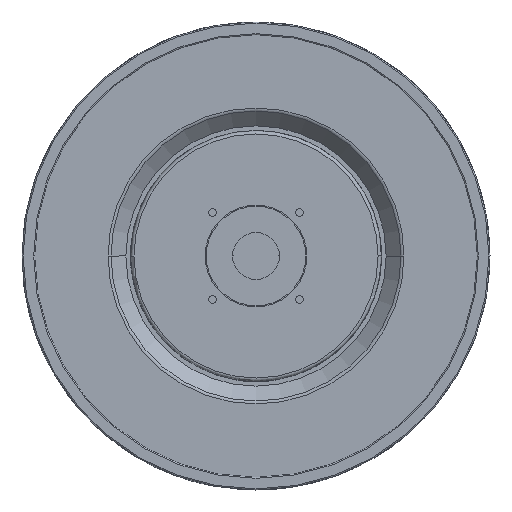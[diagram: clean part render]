
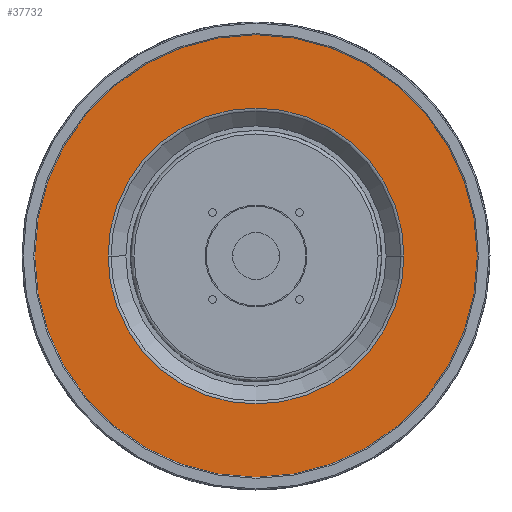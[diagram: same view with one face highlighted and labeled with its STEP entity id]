
A CAD part, front view. The second image highlights one B-rep face of the part: STEP entity #37732.
In plain terms, the highlighted planar face has unit normal (0, -1, 0).
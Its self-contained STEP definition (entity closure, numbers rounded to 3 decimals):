
#10380=CARTESIAN_POINT('',(0.,9.,0.));
#10381=DIRECTION('',(0.,1.,0.));
#10382=DIRECTION('',(1.,0.,0.));
#10383=AXIS2_PLACEMENT_3D('',#10380,#10381,#10382);
#10385=CARTESIAN_POINT('',(0.,9.,0.));
#10386=DIRECTION('',(0.,1.,0.));
#10387=DIRECTION('',(-1.,0.,0.));
#10388=AXIS2_PLACEMENT_3D('',#10385,#10386,#10387);
#10390=CARTESIAN_POINT('',(0.,9.,0.));
#10391=DIRECTION('',(0.,-1.,0.));
#10392=DIRECTION('',(-1.,0.,0.));
#10393=AXIS2_PLACEMENT_3D('',#10390,#10391,#10392);
#10395=CARTESIAN_POINT('',(0.,9.,0.));
#10396=DIRECTION('',(0.,-1.,0.));
#10397=DIRECTION('',(1.,0.,0.));
#10398=AXIS2_PLACEMENT_3D('',#10395,#10396,#10397);
#14370=CARTESIAN_POINT('',(-69.883,9.,0.));
#14371=VERTEX_POINT('',#14370);
#14372=CARTESIAN_POINT('',(69.883,9.,0.));
#14373=VERTEX_POINT('',#14372);
#14374=CARTESIAN_POINT('',(104.5,9.,0.));
#14375=CARTESIAN_POINT('',(-104.5,9.,0.));
#14376=VERTEX_POINT('',#14374);
#14377=VERTEX_POINT('',#14375);
#37717=CARTESIAN_POINT('',(0.,9.,0.));
#37718=DIRECTION('',(0.,1.,0.));
#37719=DIRECTION('',(1.,0.,0.));
#37720=AXIS2_PLACEMENT_3D('',#37717,#37718,#37719);
#37721=PLANE('',#37720);
#37723=ORIENTED_EDGE('',*,*,#37722,.T.);
#37725=ORIENTED_EDGE('',*,*,#37724,.T.);
#37726=EDGE_LOOP('',(#37723,#37725));
#37727=FACE_OUTER_BOUND('',#37726,.F.);
#37728=ORIENTED_EDGE('',*,*,#37686,.T.);
#37729=ORIENTED_EDGE('',*,*,#37700,.T.);
#37730=EDGE_LOOP('',(#37728,#37729));
#37731=FACE_BOUND('',#37730,.F.);
#37732=ADVANCED_FACE('',(#37727,#37731),#37721,.F.);
#10384=CIRCLE('',#10383,104.5);
#10389=CIRCLE('',#10388,104.5);
#10394=CIRCLE('',#10393,69.883);
#10399=CIRCLE('',#10398,69.883);
#37686=EDGE_CURVE('',#14371,#14373,#10394,.T.);
#37700=EDGE_CURVE('',#14373,#14371,#10399,.T.);
#37722=EDGE_CURVE('',#14376,#14377,#10384,.T.);
#37724=EDGE_CURVE('',#14377,#14376,#10389,.T.);
